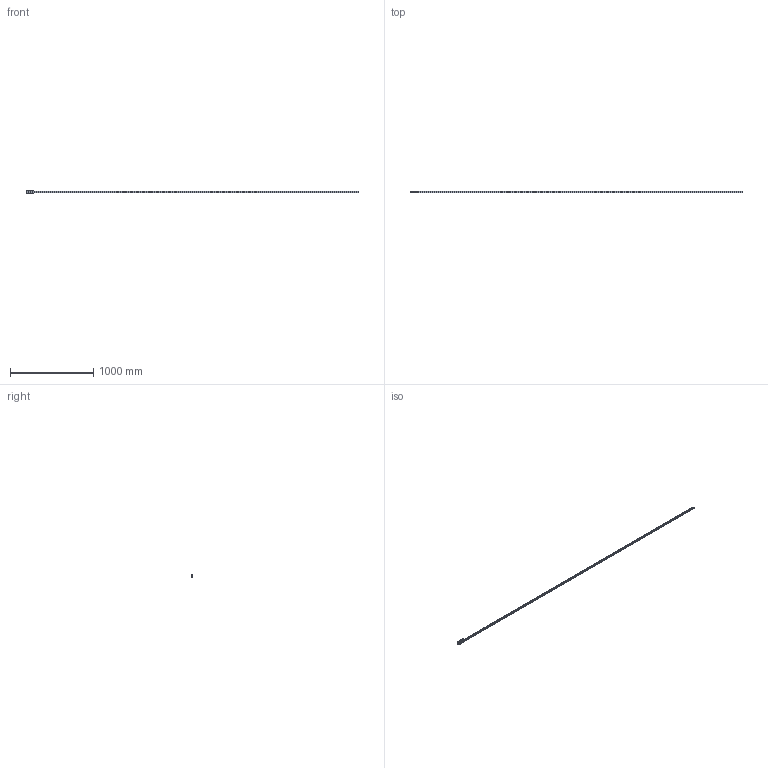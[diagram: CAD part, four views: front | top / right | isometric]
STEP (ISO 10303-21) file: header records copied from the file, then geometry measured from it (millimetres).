
FILE_DESCRIPTION( ( 'STEP AP203' ), '1' );
FILE_NAME( 'p:/temp/worker_14/temp/exporttempdir_228_833_jwr5x/format_0/FDG15 84396LN_4000-0.stp', '2021-04-27T06:44:32', ( 'License CC BY-ND 4.0' ), ( 'CADENAS' ), ' ', 'PARTsolutions', ' ' );
FILE_SCHEMA( ( 'CONFIG_CONTROL_DESIGN' ) );
Length unit declared in the file: millimetre
Products named in the file (3): FDG15 84396LN_4000-0; _FD_15K-4000-0; _FD_15K Rollenhalter
Assembly tree (2 placements, depth 2):
  FDG15 84396LN_4000-0
    _FD_15K-4000-0
    _FD_15K Rollenhalter
Bounding box: 4000 x 24 x 47 mm (x, y, z)
Volume: 931934.5 mm3; surface area: 345447.1 mm2
Topology: 2 solids, 2 shells, 715 faces, 1889 edges, 1278 vertices
Faces by surface type: plane 391, cylinder 314, torus 8, cone 2
Full cylindrical faces by diameter (mm): 3.25 x1, 4.134 x4, 4.5 x67, 5.5 x4, 7 x8, 8 x75
Entity records: 21229 total; most frequent: DIRECTION 3703, CARTESIAN_POINT 3618, ORIENTED_EDGE 3284, EDGE_CURVE 1642, AXIS2_PLACEMENT_3D 1354, VERTEX_POINT 1199, EDGE_LOOP 1127, LINE 995
